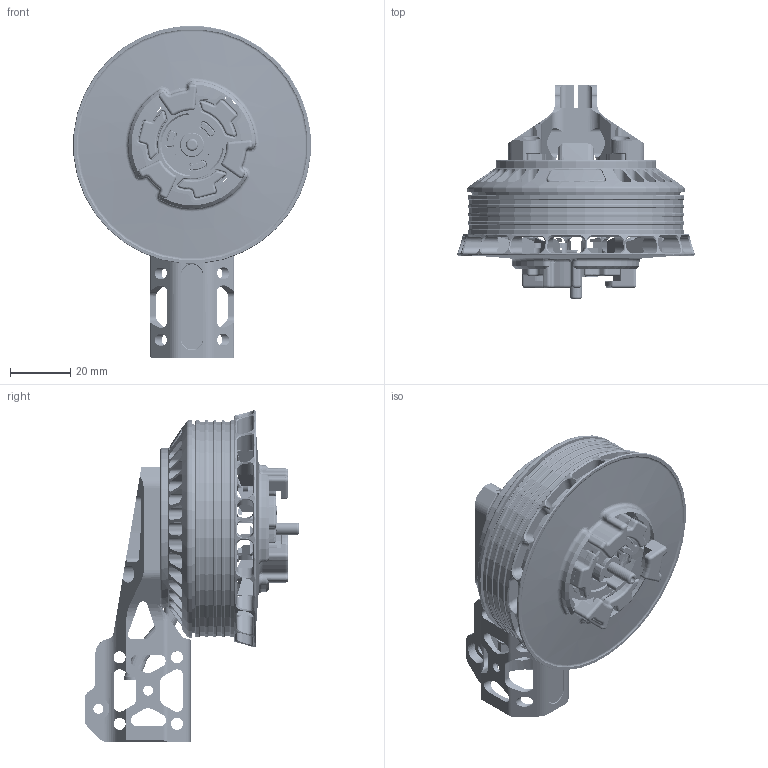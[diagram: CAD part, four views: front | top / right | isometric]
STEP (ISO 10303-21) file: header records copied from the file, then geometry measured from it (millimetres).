
FILE_DESCRIPTION (( 'STEP AP214' ), '1' );
FILE_NAME ('IPET-I5.STEP', '2026-04-03T03:00:40', ( '' ), ( '' ), 'SwSTEP 2.0', 'SolidWorks 2022', '' );
FILE_SCHEMA (( 'AUTOMOTIVE_DESIGN' ));
Length unit declared in the file: millimetre
Products named in the file (1): IPET-I5
Bounding box: 78.52 x 70.9 x 109.78 mm (x, y, z)
Surface area: 49489.8 mm2 (no closed solid volume)
Topology: 0 solids, 28 shells, 2140 faces, 8365 edges, 6113 vertices
Faces by surface type: cylinder 1192, plane 467, bspline 172, cone 159, torus 126, sphere 24
Entity records: 132490 total; most frequent: CARTESIAN_POINT 38972, DIRECTION 15059, ORIENTED_EDGE 12993, EDGE_CURVE 8345, VERTEX_POINT 6108, AXIS2_PLACEMENT_3D 6100, CIRCLE 4130, EDGE_LOOP 3051
